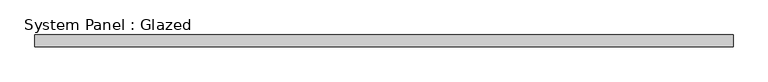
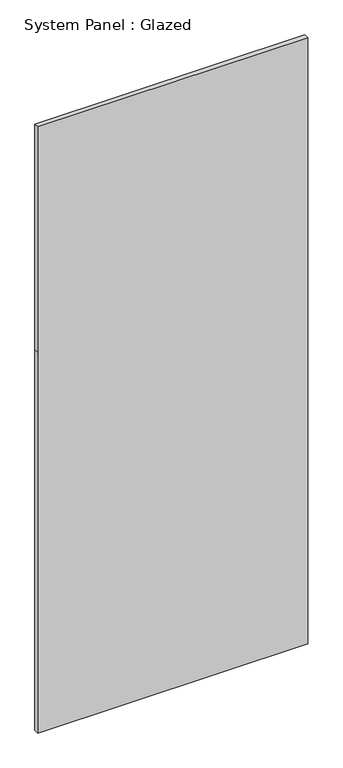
"""IFC4 building model written with IfcOpenShell, lengths in millimetres: plate geometry, System Panel : Glazed."""

from ifc_helpers import new_model, si_unit, frame, origin, place, context, project, spatial, polyline, outline, extrude, source, transform, mapped, element, save


def system_panel_glazed_79ba9eb3(model_context):
    return source(origin(), model_context, "Body", "SweptSolid", [
        extrude(outline(polyline([(0.0, -737.5), (0.0, 737.5), (2200.0, 737.5), (3500.0, 737.5), (3500.0, -737.5), (2200.0, -737.5), (0.0, -737.5)])), frame((0.0, -49.5, 0.0), z_axis=(0.0, 1.0, 0.0), x_axis=(0.0, 0.0, 1.0)), (0.0, 0.0, 1.0), 25.0),
    ])


if __name__ == "__main__":
    model = new_model("IFC4")
    model_context = context("Model", 3, world=origin())
    ifc_project = project(units=[si_unit("LENGTHUNIT", "METRE", prefix="MILLI")], contexts=[model_context])
    site = spatial("IfcSite", under=ifc_project)
    building = spatial("IfcBuilding", under=site)
    placement = place(None, origin())
    system_panel_glazed_shape = system_panel_glazed_79ba9eb3(model_context)
    element("IfcPlate", 1, ObjectType="System Panel : Glazed", at=placement, inside=building, context=model_context, shape_type="MappedRepresentation", body=[
        mapped(system_panel_glazed_shape, transform((0.0, 0.0, 0.0), x_axis=(1.0, 0.0, 0.0), y_axis=(0.0, 1.0, 0.0), z_axis=(0.0, 0.0, 1.0))),
    ])
    save(model, "model.ifc")
